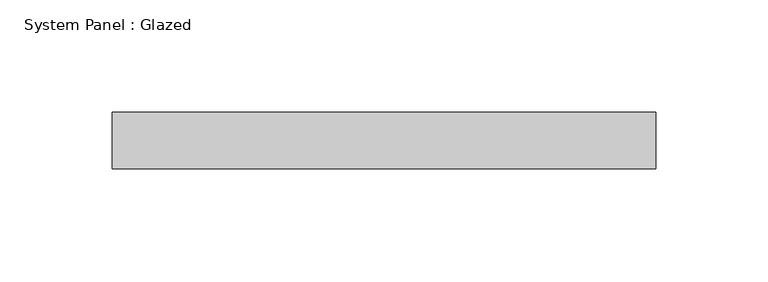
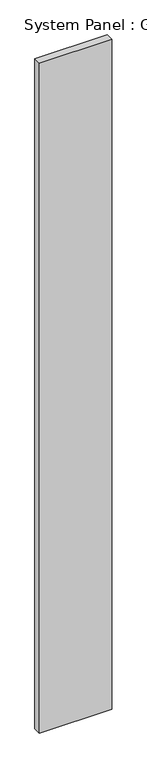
"""IFC4 building model written with IfcOpenShell, lengths in millimetres: plate geometry, System Panel : Glazed."""

from ifc_helpers import new_model, si_unit, origin, origin_with_axes, place, context, project, spatial, polyline, outline, extrude, source, transform, mapped, element, save


def system_panel_glazed_5501cdc8(model_context):
    return source(origin(), model_context, "Body", "SweptSolid", [
        extrude(outline(polyline([(120.8787097, -49.5), (-120.8787097, -49.5), (-120.8787097, -24.5), (120.8787097, -24.5), (120.8787097, -49.5)])), origin_with_axes(), (0.0, 0.0, 1.0), 2365.0),
    ])


if __name__ == "__main__":
    model = new_model("IFC4")
    model_context = context("Model", 3, world=origin())
    ifc_project = project(units=[si_unit("LENGTHUNIT", "METRE", prefix="MILLI")], contexts=[model_context])
    site = spatial("IfcSite", under=ifc_project)
    building = spatial("IfcBuilding", under=site)
    placement = place(None, origin())
    system_panel_glazed_shape = system_panel_glazed_5501cdc8(model_context)
    element("IfcPlate", 1, ObjectType="System Panel : Glazed", at=placement, inside=building, context=model_context, shape_type="MappedRepresentation", body=[
        mapped(system_panel_glazed_shape, transform((0.0, 0.0, 0.0), x_axis=(1.0, 0.0, 0.0), y_axis=(0.0, 1.0, 0.0), z_axis=(0.0, 0.0, 1.0))),
    ])
    save(model, "model.ifc")
